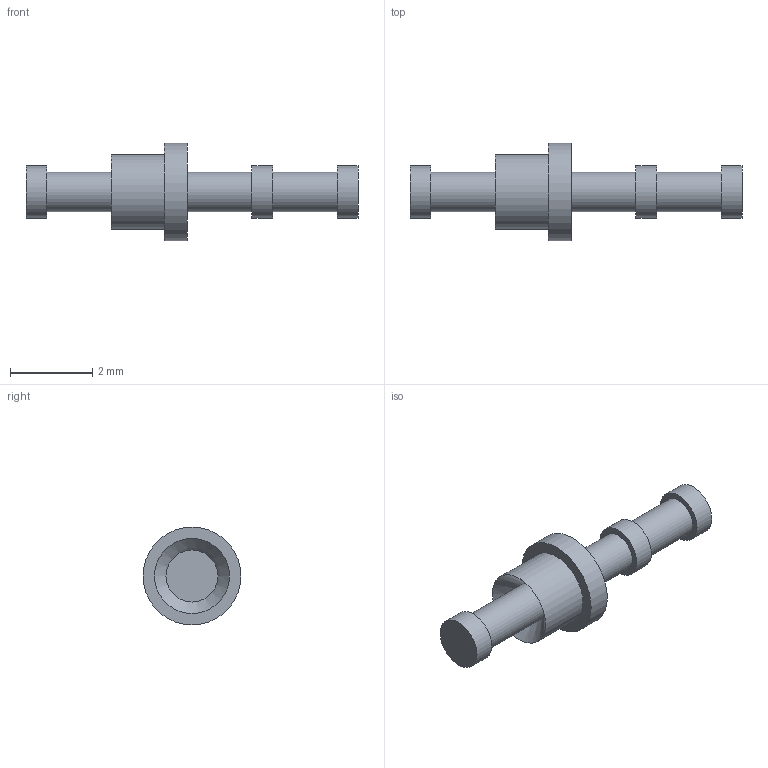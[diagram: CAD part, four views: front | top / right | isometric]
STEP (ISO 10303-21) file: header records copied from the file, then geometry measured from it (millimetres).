
FILE_DESCRIPTION(/* description */ (''),/* implementation_level */ '2;1');
FILE_NAME(/* name */ 'Z:\STEP folder\160-2044-01.ipt.stp',/* time_stamp */ '2016-12-07T10:50:37+00:00',/* author */ ('Paul Karlsons'),/* organization */ (''),/* preprocessor_version */ 'ST-DEVELOPER v15.2',/* originating_system */ 'Autodesk Inventor 2014',/* authorisation */ '');
FILE_SCHEMA (('AUTOMOTIVE_DESIGN { 1 0 10303 214 3 1 1 }'));
Length unit declared in the file: millimetre
Products named in the file (1): 160-2044-01
Bounding box: 8.1 x 2.39 x 2.39 mm (x, y, z)
Volume: 10.9 mm3; surface area: 46.3 mm2
Topology: 1 solids, 1 shells, 17 faces, 25 edges, 16 vertices
Faces by surface type: cylinder 8, plane 8, cone 1
Full cylindrical faces by diameter (mm): 0.965 x3, 1.27 x3, 1.829 x1, 2.388 x1
Entity records: 355 total; most frequent: DIRECTION 68, CARTESIAN_POINT 50, AXIS2_PLACEMENT_3D 34, EDGE_LOOP 32, ORIENTED_EDGE 32, FACE_BOUND 18, ADVANCED_FACE 17, CIRCLE 16
